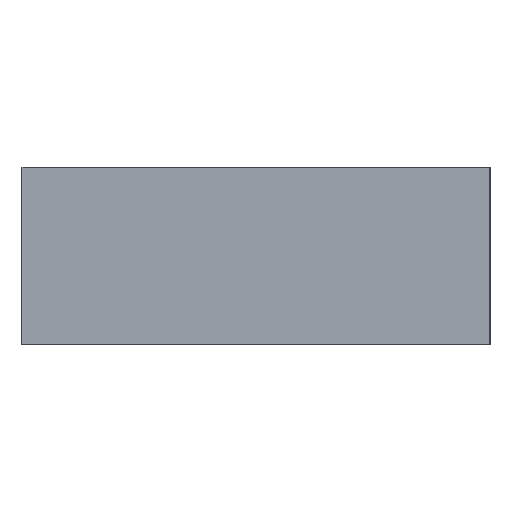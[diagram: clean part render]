
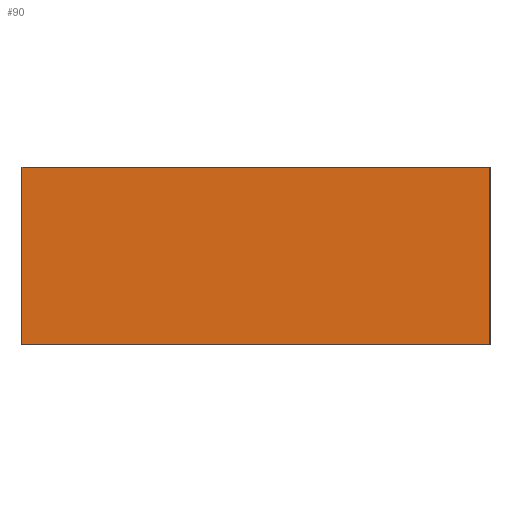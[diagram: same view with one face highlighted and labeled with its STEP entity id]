
A CAD part, left-side view. The second image highlights one B-rep face of the part: STEP entity #90.
In plain terms, the highlighted planar face has unit normal (-1, 0, 0).
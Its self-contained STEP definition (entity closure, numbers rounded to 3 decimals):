
#90 = ADVANCED_FACE( '', ( #182 ), #183, .F. );
#182 = FACE_OUTER_BOUND( '', #271, .T. );
#183 = PLANE( '', #272 );
#271 = EDGE_LOOP( '', ( #466, #467, #468, #469 ) );
#272 = AXIS2_PLACEMENT_3D( '', #470, #471, #472 );
#466 = ORIENTED_EDGE( '', *, *, #525, .T. );
#467 = ORIENTED_EDGE( '', *, *, #593, .F. );
#468 = ORIENTED_EDGE( '', *, *, #584, .F. );
#469 = ORIENTED_EDGE( '', *, *, #557, .T. );
#470 = CARTESIAN_POINT( '', ( -6.55, 0., 6.075 ) );
#471 = DIRECTION( '', ( 1., 0., 0. ) );
#472 = DIRECTION( '', ( 0., 0., -1. ) );
#525 = EDGE_CURVE( '', #621, #619, #622, .T. );
#557 = EDGE_CURVE( '', #670, #621, #671, .T. );
#584 = EDGE_CURVE( '', #670, #709, #710, .T. );
#593 = EDGE_CURVE( '', #709, #619, #719, .T. );
#619 = VERTEX_POINT( '', #753 );
#621 = VERTEX_POINT( '', #756 );
#622 = LINE( '', #757, #758 );
#670 = VERTEX_POINT( '', #828 );
#671 = LINE( '', #829, #830 );
#709 = VERTEX_POINT( '', #884 );
#710 = LINE( '', #885, #886 );
#719 = LINE( '', #899, #900 );
#753 = CARTESIAN_POINT( '', ( -6.55, -32., -6.075 ) );
#756 = CARTESIAN_POINT( '', ( -6.55, 0., -6.075 ) );
#757 = CARTESIAN_POINT( '', ( -6.55, 0., -6.075 ) );
#758 = VECTOR( '', #917, 1000. );
#828 = CARTESIAN_POINT( '', ( -6.55, 0., 6.075 ) );
#829 = CARTESIAN_POINT( '', ( -6.55, 0., 6.075 ) );
#830 = VECTOR( '', #946, 1000. );
#884 = CARTESIAN_POINT( '', ( -6.55, -32., 6.075 ) );
#885 = CARTESIAN_POINT( '', ( -6.55, 0., 6.075 ) );
#886 = VECTOR( '', #969, 1000. );
#899 = CARTESIAN_POINT( '', ( -6.55, -32., 6.075 ) );
#900 = VECTOR( '', #974, 1000. );
#917 = DIRECTION( '', ( 0., -1., 0. ) );
#946 = DIRECTION( '', ( 0., 0., -1. ) );
#969 = DIRECTION( '', ( 0., -1., 0. ) );
#974 = DIRECTION( '', ( 0., 0., -1. ) );
